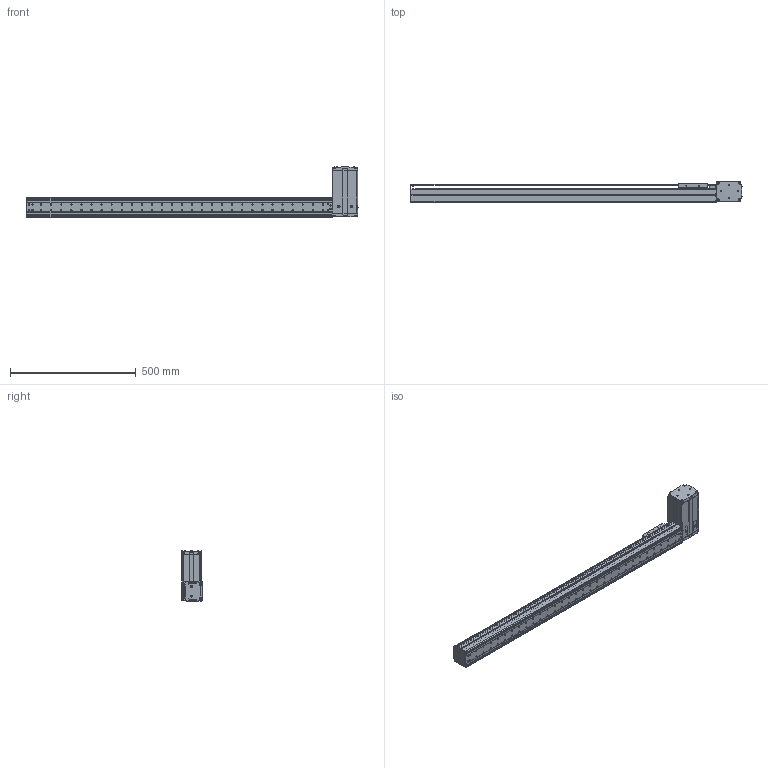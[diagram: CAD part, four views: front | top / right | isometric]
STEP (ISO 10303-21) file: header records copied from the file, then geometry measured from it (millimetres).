
FILE_DESCRIPTION((''),'2;1');
FILE_NAME('BE10_-BR-M_N-A0_IGS_PRT','2017-06-18T',(' '),(''),'PRO/ENGINEER BY PARAMETRIC TECHNOLOGY CORPORATION, 2015030','PRO/ENGINEER BY PARAMETRIC TECHNOLOGY CORPORATION, 2015030','');
FILE_SCHEMA(('CONFIG_CONTROL_DESIGN'));
Products named in the file (1): BE10_-BR-M_N-A0_IGS_PRT
Bounding box: 1320.8 x 82.5 x 200.22 mm (x, y, z)
Volume: 1606075 mm3; surface area: 1143876.7 mm2
Topology: 3 solids, 152 shells, 2154 faces, 5881 edges, 3881 vertices
Faces by surface type: plane 1005, cylinder 978, cone 111, sphere 30, torus 27, bspline 3
Entity records: 70062 total; most frequent: CARTESIAN_POINT 14309, DIRECTION 11844, ORIENTED_EDGE 11118, EDGE_CURVE 5819, AXIS2_PLACEMENT_3D 4277, VERTEX_POINT 3881, VECTOR 3290, LINE 3290
